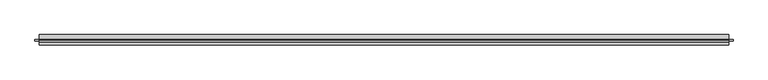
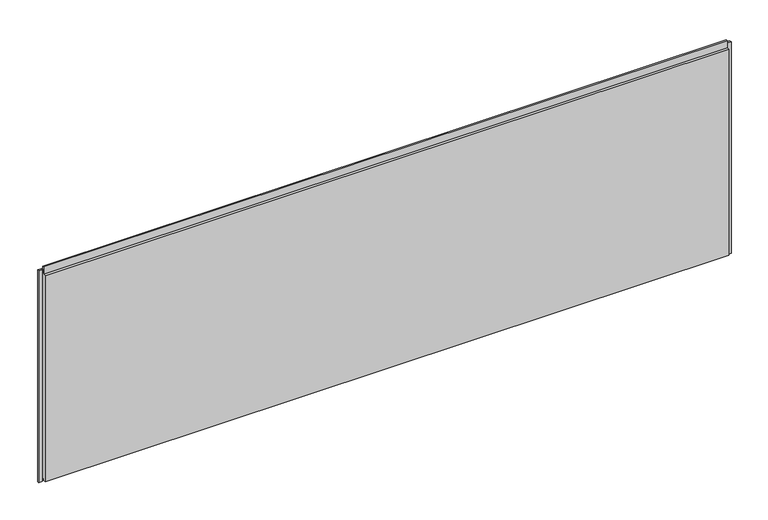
"""IFC4 building model written with IfcOpenShell, lengths in millimetres: plate geometry, Trimo_Qbiss Screen_Normal Panel-HORIZONTAL : HR - B."""

from ifc_helpers import new_model, si_unit, frame, origin, place, context, project, spatial, polyline, outline, extrude, source, transform, mapped, element, save


def plate_34e137b8(model_context):
    return source(origin(), model_context, "Body", "SweptSolid", [
        extrude(outline(polyline([(-1700.5, 76.5978162), (-1700.5, 67.8978162), (-1719.5, 67.8978162), (-1719.5, 76.5978162), (-1700.5, 76.5978162)])), frame((0.0, 0.0, -1.0), z_axis=(0.0, 0.0, 1.0), x_axis=(1.0, 0.0, 0.0)), (0.0, 0.0, 1.0), 1112.5),
        extrude(outline(polyline([(1700.5, 67.8978162), (1700.5, 76.5978162), (1719.5, 76.5978162), (1719.5, 67.8978162), (1700.5, 67.8978162)])), frame((0.0, 0.0, -1.0), z_axis=(0.0, 0.0, 1.0), x_axis=(1.0, 0.0, 0.0)), (0.0, 0.0, 1.0), 1112.5),
        extrude(outline(polyline([(1697.5, 76.0), (1697.5, 71.0), (-1697.5, 71.0), (-1697.5, 76.0), (1697.5, 76.0)])), frame((0.0, 0.0, 1090.5), z_axis=(0.0, 0.0, 1.0), x_axis=(1.0, 0.0, 0.0)), (0.0, 0.0, 1.0), 21.0),
        extrude(outline(polyline([(71.0, 1089.5), (100.0, 1089.5), (100.0, 0.0), (72.0, 0.0), (72.0, 15.5), (62.0, 15.5), (62.0, 7.0), (50.0, 7.0), (50.0, 1089.5), (63.0, 1089.5), (63.0, 1127.0), (71.0, 1127.0), (71.0, 1089.5)])), frame((-1697.5, 0.0, 0.0), z_axis=(1.0, 0.0, 0.0), x_axis=(0.0, 1.0, 0.0)), (0.0, 0.0, 1.0), 3395.0),
    ])


if __name__ == "__main__":
    model = new_model("IFC4")
    model_context = context("Model", 3, world=origin())
    ifc_project = project(units=[si_unit("LENGTHUNIT", "METRE", prefix="MILLI")], contexts=[model_context])
    site = spatial("IfcSite", under=ifc_project)
    building = spatial("IfcBuilding", under=site)
    placement = place(None, origin())
    plate_shape = plate_34e137b8(model_context)
    element("IfcPlate", 1, ObjectType="Trimo_Qbiss Screen_Normal Panel-HORIZONTAL : HR - B", at=placement, inside=building, context=model_context, shape_type="MappedRepresentation", body=[
        mapped(plate_shape, transform((0.0, 0.0, 0.0), x_axis=(1.0, 0.0, 0.0), y_axis=(0.0, 1.0, 0.0), z_axis=(0.0, 0.0, 1.0))),
    ])
    save(model, "model.ifc")
